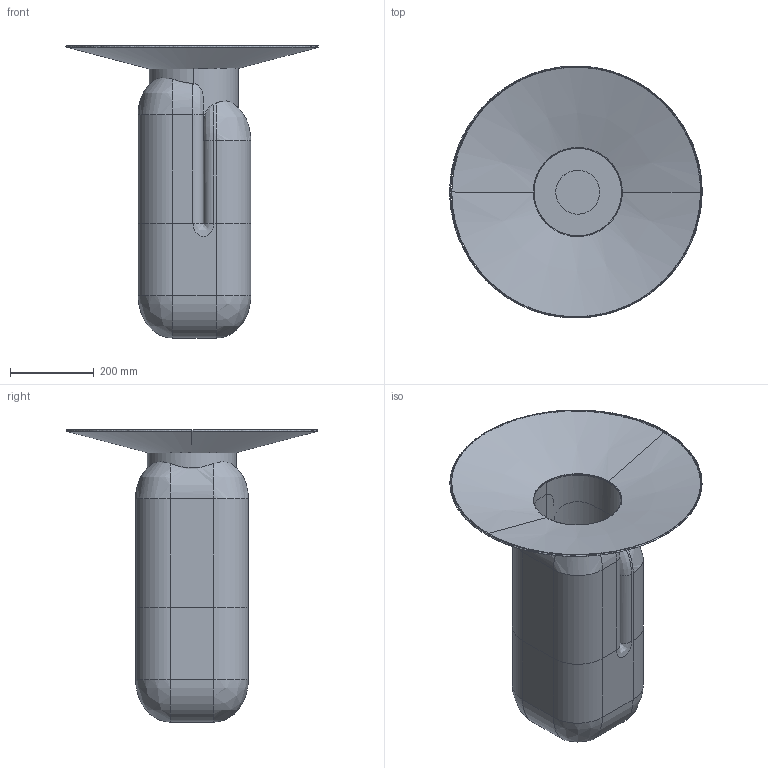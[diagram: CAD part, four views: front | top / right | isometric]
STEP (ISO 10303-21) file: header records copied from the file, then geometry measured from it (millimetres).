
FILE_DESCRIPTION(/* description */ (''),/* implementation_level */ '2;1');
FILE_NAME(/* name */ 'Bourgeon',/* time_stamp */ '2021-01-26T12:50:30+01:00',/* author */ (''),/* organization */ (''),/* preprocessor_version */ 'ST-DEVELOPER v15',/* originating_system */ '',/* authorisation */ '');
FILE_SCHEMA (('AUTOMOTIVE_DESIGN'));
Length unit declared in the file: millimetre
Products named in the file (1): Document
Bounding box: 604.89 x 603.36 x 699.68 mm (x, y, z)
Volume: 536733.5 mm3; surface area: 1618987.8 mm2
Topology: 2 solids, 56 shells, 68 faces, 258 edges, 242 vertices
Faces by surface type: bspline 62, plane 6
Entity records: 4910 total; most frequent: CARTESIAN_POINT 3672, ORIENTED_EDGE 282, EDGE_CURVE 254, VERTEX_POINT 238, EDGE_LOOP 70, ADVANCED_FACE 68, FACE_OUTER_BOUND 68, PRESENTATION_LAYER_ASSIGNMENT 58
